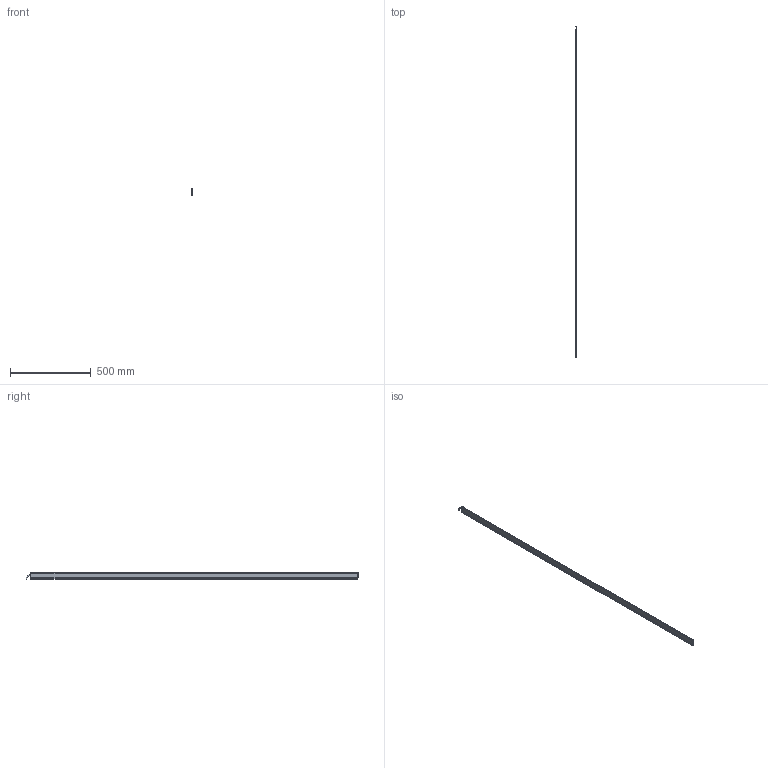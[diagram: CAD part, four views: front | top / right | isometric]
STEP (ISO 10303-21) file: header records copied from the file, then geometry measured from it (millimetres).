
FILE_DESCRIPTION (( 'STEP AP214' ), '1' );
FILE_NAME ('ILG-L-K1-2033mm.STEP', '2017-07-11T07:14:01', ( '' ), ( '' ), 'SwSTEP 2.0', 'SolidWorks 2016', '' );
FILE_SCHEMA (( 'AUTOMOTIVE_DESIGN' ));
Length unit declared in the file: millimetre
Products named in the file (1): ILG-L-K1-2033mm
Bounding box: 9 x 2061.25 x 40.71 mm (x, y, z)
Volume: 286734.1 mm3; surface area: 399421.5 mm2
Topology: 9 solids, 9 shells, 432 faces, 1114 edges, 702 vertices
Faces by surface type: plane 205, cylinder 153, cone 64, torus 10
Entity records: 18006 total; most frequent: CARTESIAN_POINT 2397, DIRECTION 2342, ORIENTED_EDGE 2212, EDGE_CURVE 1106, AXIS2_PLACEMENT_3D 855, VERTEX_POINT 702, LINE 632, VECTOR 632
